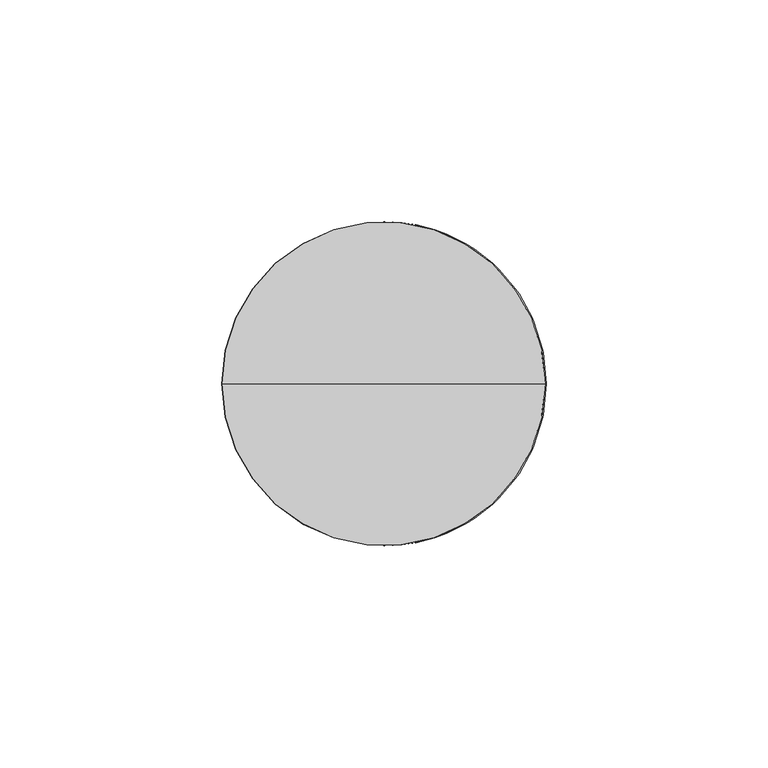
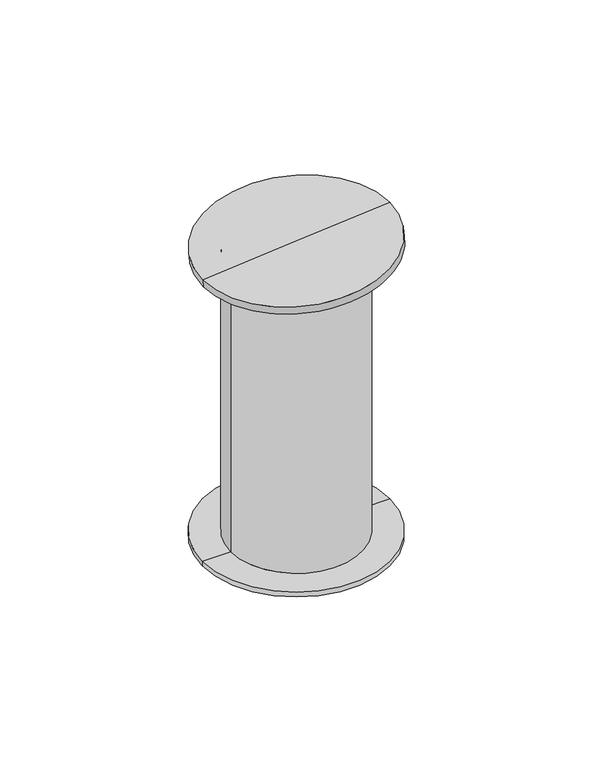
"""IFC4 building model written with IfcOpenShell, lengths in millimetres: proxy geometry, ANIH-ANPH-ANTH : Pieza ANIH1_Anclaje Inclinado_TuboØ43mm."""

from ifc_helpers import new_model, si_unit, frame, origin, place, context, project, spatial, circle_curve, source, transform, mapped, element, save
from ifc_brep_helpers import plane_surface, cylinder_surface, advanced_brep


def generic_models_89dbc428(model_context):
    return source(origin(), model_context, "Body", "AdvancedBrep", [
        advanced_brep(
        [(0.0, 0.0, 0.0), (36.3611065, 0.0, 3.1811846), (-36.3611065, 0.0, -3.1811846), (-36.0996393, 0.0, -6.1697687), (36.6225737, 0.0, 0.1926005), (0.2614672, 0.0, -2.9885841)],
        [
            (0, 1),
            (1, 2, circle_curve(frame((0.0, 0.0, 0.0), z_axis=(-0.08715574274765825, 0.0, 0.9961946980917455), x_axis=(0.9961946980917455, 0.0, 0.08715574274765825)), 36.5)),
            (2, 0),
            (2, 1, circle_curve(frame((0.0, 0.0, 0.0), z_axis=(-0.08715574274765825, 0.0, 0.9961946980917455), x_axis=(0.9961946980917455, 0.0, 0.08715574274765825)), 36.5)),
            (3, 4, circle_curve(frame((0.2614672, 0.0, -2.9885841), z_axis=(0.08715574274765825, 0.0, -0.9961946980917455), x_axis=(0.9961946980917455, 0.0, 0.08715574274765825)), 36.5)),
            (4, 5),
            (5, 3),
            (4, 3, circle_curve(frame((0.2614672, 0.0, -2.9885841), z_axis=(0.08715574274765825, 0.0, -0.9961946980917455), x_axis=(0.9961946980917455, 0.0, 0.08715574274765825)), 36.5)),
            (1, 4),
            (3, 2),
        ],
        [
            plane_surface(frame((0.0, 0.0, 0.0), z_axis=(-0.08715574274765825, 0.0, 0.9961946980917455), x_axis=(0.9961946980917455, 0.0, 0.08715574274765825))),
            plane_surface(frame((0.2614672, 0.0, -2.9885841), z_axis=(0.08715574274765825, 0.0, -0.9961946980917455), x_axis=(0.9961946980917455, 0.0, 0.08715574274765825))),
            cylinder_surface(frame((0.0, 0.0, 0.0), z_axis=(-0.08715574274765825, 0.0, 0.9961946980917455), x_axis=(0.9961946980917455, 0.0, 0.08715574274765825)), 36.5),
        ],
        [
            (0, [[1, 2, 3]]),
            (0, [[-3, 4, -1]]),
            (1, [[5, 6, 7]]),
            (1, [[8, -7, -6]]),
            (2, [[-2, 9, -5, 10]]),
            (2, [[-4, -10, -8, -9]]),
        ],
    ),
        advanced_brep(
        [(25.5, 0.0, -3.0), (-25.5, 0.0, -3.0), (0.0, 0.0, -3.0), (25.5, 0.0, -119.0), (-25.5, 0.0, -119.0), (36.5, 0.0, -119.0), (-36.5, 0.0, -119.0), (36.5, 0.0, -121.0), (-36.5, 0.0, -121.0), (0.0, 0.0, -121.0)],
        [
            (0, 1, circle_curve(frame((0.0, 0.0, -3.0), z_axis=(0.0, 0.0, 1.0), x_axis=(-1.0, 0.0, 0.0)), 25.5)),
            (1, 2),
            (2, 0),
            (1, 0, circle_curve(frame((0.0, 0.0, -3.0), z_axis=(0.0, 0.0, 1.0), x_axis=(-1.0, 0.0, 0.0)), 25.5)),
            (3, 4, circle_curve(frame((0.0, 0.0, -119.0), z_axis=(0.0, 0.0, 1.0), x_axis=(-1.0, 0.0, 0.0)), 25.5)),
            (4, 1),
            (0, 3),
            (4, 3, circle_curve(frame((0.0, 0.0, -119.0), z_axis=(0.0, 0.0, 1.0), x_axis=(-1.0, 0.0, 0.0)), 25.5)),
            (5, 6, circle_curve(frame((0.0, 0.0, -119.0), z_axis=(0.0, 0.0, 1.0), x_axis=(-1.0, 0.0, 0.0)), 36.5)),
            (6, 4),
            (3, 5),
            (6, 5, circle_curve(frame((0.0, 0.0, -119.0), z_axis=(0.0, 0.0, 1.0), x_axis=(-1.0, 0.0, 0.0)), 36.5)),
            (7, 8, circle_curve(frame((0.0, 0.0, -121.0), z_axis=(0.0, 0.0, 1.0), x_axis=(-1.0, 0.0, 0.0)), 36.5)),
            (8, 6),
            (5, 7),
            (8, 7, circle_curve(frame((0.0, 0.0, -121.0), z_axis=(0.0, 0.0, 1.0), x_axis=(-1.0, 0.0, 0.0)), 36.5)),
            (9, 8),
            (7, 9),
        ],
        [
            plane_surface(frame((0.0, 0.0, -3.0), z_axis=(0.0, 0.0, 1.0), x_axis=(-1.0, 0.0, 0.0))),
            cylinder_surface(frame((0.0, 0.0, -3.0), z_axis=(0.0, 0.0, -1.0), x_axis=(-1.0, 0.0, 0.0)), 25.5),
            plane_surface(frame((0.0, 0.0, -119.0), z_axis=(0.0, 0.0, 1.0), x_axis=(-1.0, 0.0, 0.0))),
            cylinder_surface(frame((0.0, 0.0, -3.0), z_axis=(0.0, 0.0, -1.0), x_axis=(-1.0, 0.0, 0.0)), 36.5),
            plane_surface(frame((0.0, 0.0, -121.0), z_axis=(0.0, 0.0, -1.0), x_axis=(-1.0, 0.0, 0.0))),
        ],
        [
            (0, [[1, 2, 3]]),
            (0, [[4, -3, -2]]),
            (1, [[5, 6, -1, 7]]),
            (1, [[8, -7, -4, -6]]),
            (2, [[9, 10, -5, 11]]),
            (2, [[12, -11, -8, -10]]),
            (3, [[13, 14, -9, 15]]),
            (3, [[16, -15, -12, -14]]),
            (4, [[17, -13, 18]]),
            (4, [[-18, -16, -17]]),
        ],
    ),
    ])


if __name__ == "__main__":
    model = new_model("IFC4")
    model_context = context("Model", 3, world=origin())
    ifc_project = project(units=[si_unit("LENGTHUNIT", "METRE", prefix="MILLI")], contexts=[model_context])
    site = spatial("IfcSite", under=ifc_project)
    building = spatial("IfcBuilding", under=site)
    placement = place(None, origin())
    generic_models_shape = generic_models_89dbc428(model_context)
    element("IfcBuildingElementProxy", 1, Name="ANIH-ANPH-ANTH : Pieza ANIH1_Anclaje Inclinado_TuboØ43mm", ObjectType="ANIH-ANPH-ANTH : Pieza ANIH1_Anclaje Inclinado_TuboØ43mm", at=placement, inside=building, context=model_context, shape_type="MappedRepresentation", body=[
        mapped(generic_models_shape, transform((0.0, 0.0, 0.0), x_axis=(1.0, 0.0, 0.0), y_axis=(0.0, 1.0, 0.0), z_axis=(0.0, 0.0, 1.0))),
    ])
    save(model, "model.ifc")
